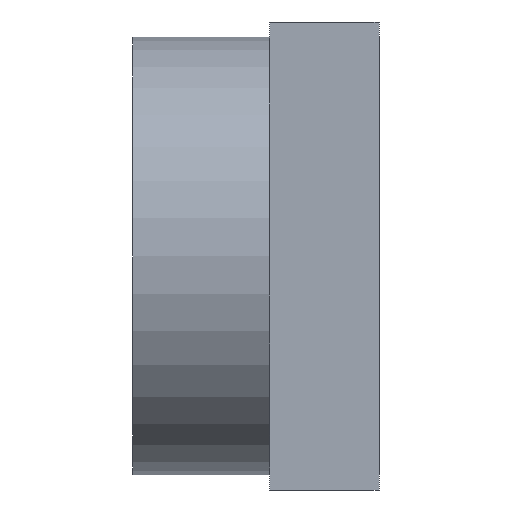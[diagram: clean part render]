
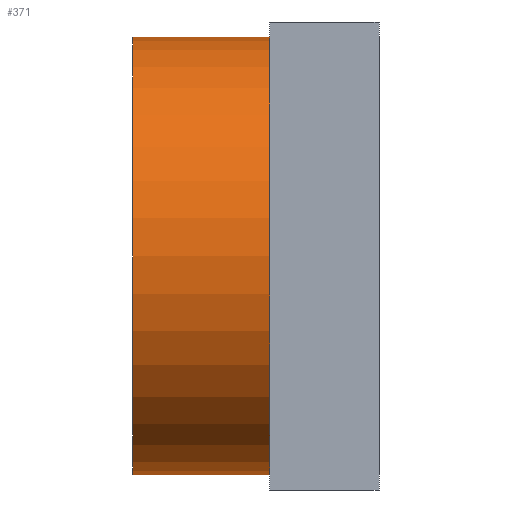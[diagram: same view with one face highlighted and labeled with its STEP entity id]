
A CAD part, left-side view. The second image highlights one B-rep face of the part: STEP entity #371.
In plain terms, the highlighted cylindrical face has radius 4 mm (diameter 8 mm), a partial arc.
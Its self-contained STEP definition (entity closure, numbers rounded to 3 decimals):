
#5 = DIRECTION ( 'NONE',  ( 0., -1., 0. ) ) ;
#8 = FACE_OUTER_BOUND ( 'NONE', #786, .T. ) ;
#22 = DIRECTION ( 'NONE',  ( 0., 0., 1. ) ) ;
#46 = DIRECTION ( 'NONE',  ( 0., 0., -1. ) ) ;
#59 = EDGE_CURVE ( 'NONE', #131, #419, #159, .T. ) ;
#78 = CIRCLE ( 'NONE', #569, 4. ) ;
#131 = VERTEX_POINT ( 'NONE', #141 ) ;
#141 = CARTESIAN_POINT ( 'NONE',  ( 0., 4.5, -4. ) ) ;
#159 = CIRCLE ( 'NONE', #659, 4. ) ;
#196 = VECTOR ( 'NONE', #1239, 1000. ) ;
#261 = ORIENTED_EDGE ( 'NONE', *, *, #59, .F. ) ;
#355 = DIRECTION ( 'NONE',  ( 0., 1., 0. ) ) ;
#357 = LINE ( 'NONE', #844, #817 ) ;
#371 = ADVANCED_FACE ( 'NONE', ( #8 ), #1253, .T. ) ;
#399 = EDGE_CURVE ( 'NONE', #131, #867, #687, .T. ) ;
#419 = VERTEX_POINT ( 'NONE', #938 ) ;
#454 = CARTESIAN_POINT ( 'NONE',  ( 0., 2., 4. ) ) ;
#505 = EDGE_CURVE ( 'NONE', #419, #546, #357, .T. ) ;
#514 = ORIENTED_EDGE ( 'NONE', *, *, #505, .F. ) ;
#546 = VERTEX_POINT ( 'NONE', #454 ) ;
#569 = AXIS2_PLACEMENT_3D ( 'NONE', #1206, #600, #22 ) ;
#600 = DIRECTION ( 'NONE',  ( 0., 1., 0. ) ) ;
#634 = CARTESIAN_POINT ( 'NONE',  ( 0., 4.5, -4. ) ) ;
#659 = AXIS2_PLACEMENT_3D ( 'NONE', #954, #355, #1055 ) ;
#685 = CARTESIAN_POINT ( 'NONE',  ( 0., 4.5, 0. ) ) ;
#687 = LINE ( 'NONE', #634, #196 ) ;
#771 = ORIENTED_EDGE ( 'NONE', *, *, #399, .T. ) ;
#786 = EDGE_LOOP ( 'NONE', ( #514, #261, #771, #864 ) ) ;
#808 = EDGE_CURVE ( 'NONE', #867, #546, #78, .T. ) ;
#817 = VECTOR ( 'NONE', #1153, 1000. ) ;
#844 = CARTESIAN_POINT ( 'NONE',  ( 0., 4.5, 4. ) ) ;
#864 = ORIENTED_EDGE ( 'NONE', *, *, #808, .T. ) ;
#867 = VERTEX_POINT ( 'NONE', #1210 ) ;
#938 = CARTESIAN_POINT ( 'NONE',  ( 0., 4.5, 4. ) ) ;
#954 = CARTESIAN_POINT ( 'NONE',  ( 0., 4.5, 0. ) ) ;
#1055 = DIRECTION ( 'NONE',  ( 0., 0., 1. ) ) ;
#1091 = AXIS2_PLACEMENT_3D ( 'NONE', #685, #5, #46 ) ;
#1153 = DIRECTION ( 'NONE',  ( 0., -1., 0. ) ) ;
#1206 = CARTESIAN_POINT ( 'NONE',  ( 0., 2., 0. ) ) ;
#1210 = CARTESIAN_POINT ( 'NONE',  ( 0., 2., -4. ) ) ;
#1239 = DIRECTION ( 'NONE',  ( 0., -1., 0. ) ) ;
#1253 = CYLINDRICAL_SURFACE ( 'NONE', #1091, 4. ) ;
